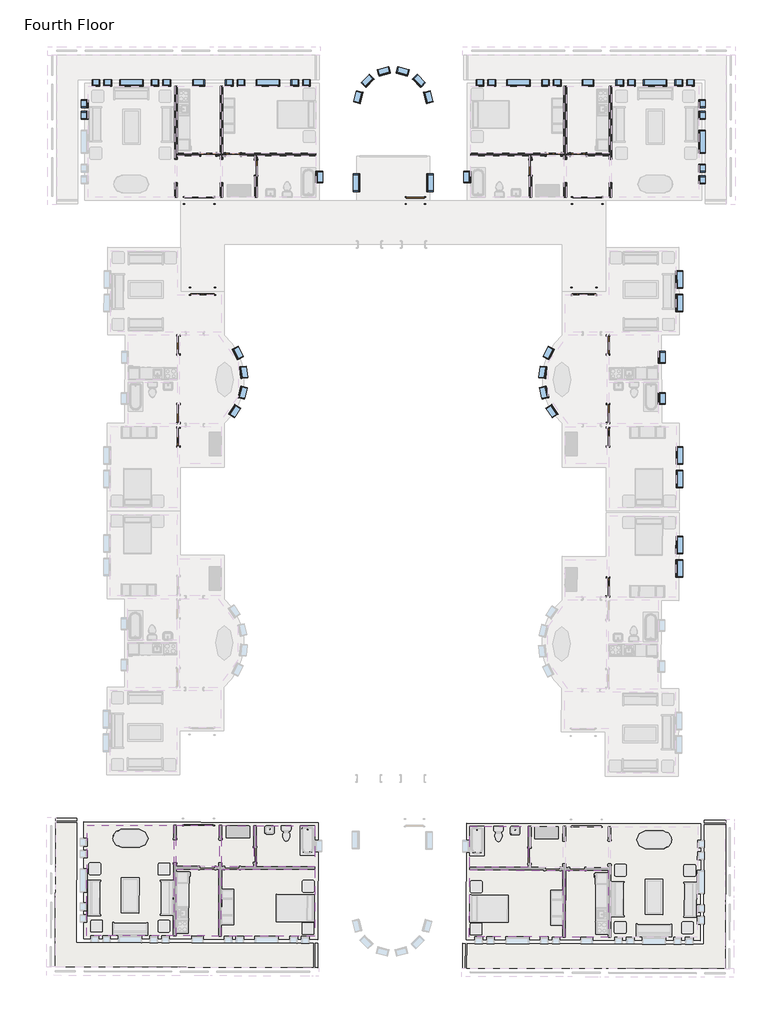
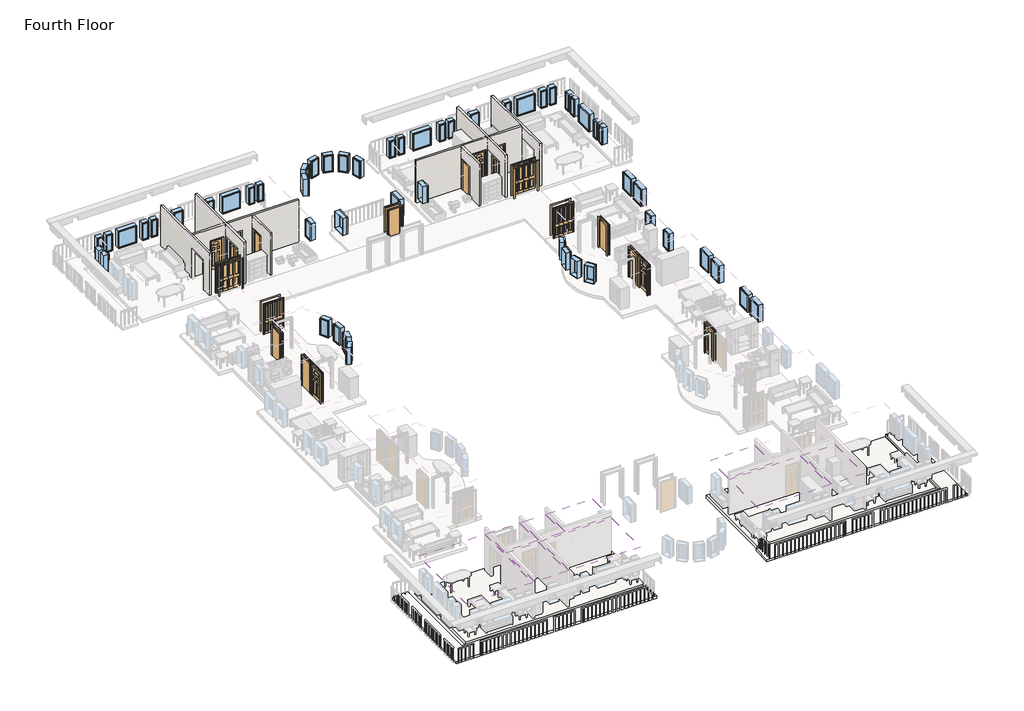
# One storey, part 2 of 8: 55 windows, 18 doors, 9 coverings, 8 walls, 4 slabs.
"""IFC4 building model written with IfcOpenShell, lengths in millimetres."""

from ifc_helpers import new_model, si_unit, frame, origin, place, context, project, spatial, polyline, outline, extrude, faceted_brep, transform, mapped, element, save
from components import m_bifold_4_panel_1220_x_2134mm_46e1cad3, m_bifold_4_panel_1220_x_2134mm_cde6dea2, m_bifold_4_panel_1525_x_2134mm_1ddae71f, m_bifold_4_panel_1525_x_2134mm_ac598c8b, m_single_decorative_2_0762_x_2134mm_0d0af7cb, m_single_decorative_2_0762_x_2134mm_2fe67c8e, m_single_decorative_2_0915_x_2134mm_cc9a65e4, m_single_decorative_2_0915_x_2134mm_0b11df3f, m_single_flush_0762_x_2134mm_0d89e411, m_single_flush_0762_x_2134mm_a28375c7, m_single_flush_0915_x_2134mm_1eac8bb1, m_single_flush_0915_x_2134mm_ab9b6334, m_single_flush_0915_x_2134mm_08e0827a, m_fixed_0406_x_1220mm_57fee329, m_fixed_0406_x_1220mm_85c28f40, m_fixed_0610_x_1220mm_2c28ef1d, m_fixed_0610_x_1220mm_1ea27827, m_fixed_0915_x_1220mm_bde29121, m_fixed_0915_x_1220mm_2a2509e7, m_fixed_1220_x_1220mm_e08ff7af, m_fixed_1220_x_1220mm_8f5f8ad3

model = new_model("IFC4")

# Units and contexts
model_context = context("Model", 3, world=origin())
ifc_project = project(units=[si_unit("LENGTHUNIT", "METRE", prefix="MILLI")], contexts=[model_context])

# Site, building, storey
site = spatial("IfcSite", under=ifc_project)
building = spatial("IfcBuilding", under=site)
storey = spatial("IfcBuildingStorey", under=building, Name="Fourth Floor", Elevation=9144.0)

# Coverings
placement = place(None, origin())
element("IfcCovering", 1, ObjectType="Plain", at=placement, inside=storey, context=model_context, shape_type="SweptSolid", body=[
    extrude(outline(polyline([(-14999.3091283, -41787.7339965), (-14989.2451686, -38311.2485634), (-10140.7654843, -38325.2842626), (-10150.829444, -41801.7696957), (-14999.3091283, -41787.7339965)])), frame((0.0, 0.0, 11734.0), z_axis=(0.0, 0.0, 1.0), x_axis=(1.0, 0.0, 0.0)), (0.0, 0.0, 1.0), 57.0),
])
element("IfcCovering", 2, ObjectType="Plain", at=placement, inside=storey, context=model_context, shape_type="SweptSolid", body=[
    extrude(outline(polyline([(-10005.2660521, -38325.6765153), (-7787.0253468, -38332.098025), (-7797.0893064, -41808.5834581), (-10015.3300117, -41802.1619484), (-10005.2660521, -38325.6765153)])), frame((0.0, 0.0, 11734.0), z_axis=(0.0, 0.0, 1.0), x_axis=(1.0, 0.0, 0.0)), (0.0, 0.0, 1.0), 57.0),
])
element("IfcCovering", 3, ObjectType="Plain", at=placement, inside=storey, context=model_context, shape_type="SweptSolid", body=[
    extrude(outline(polyline([(-11940.8656874, -38184.5726459), (-14988.8529159, -38175.7491311), (-14982.6752977, -36041.7580728), (-11934.6880691, -36050.5815875), (-11940.8656874, -38184.5726459)])), frame((0.0, 0.0, 11734.0), z_axis=(0.0, 0.0, 1.0), x_axis=(1.0, 0.0, 0.0)), (0.0, 0.0, 1.0), 57.0),
])
element("IfcCovering", 4, ObjectType="Plain", at=placement, inside=storey, context=model_context, shape_type="SweptSolid", body=[
    extrude(outline(polyline([(-23042.7754252, -41764.4492391), (-27891.2551095, -41750.4135399), (-27881.1911499, -38273.9281067), (-23032.7114656, -38287.9638059), (-23042.7754252, -41764.4492391)])), frame((0.0, 0.0, 11734.0), z_axis=(0.0, 0.0, 1.0), x_axis=(1.0, 0.0, 0.0)), (0.0, 0.0, 1.0), 57.0),
])
element("IfcCovering", 5, ObjectType="Plain", at=placement, inside=storey, context=model_context, shape_type="SweptSolid", body=[
    extrude(outline(polyline([(-28016.6905821, -38273.535854), (-28026.7545418, -41750.0212871), (-30244.9952471, -41743.5997775), (-30234.9312874, -38267.1143443), (-28016.6905821, -38273.535854)])), frame((0.0, 0.0, 11734.0), z_axis=(0.0, 0.0, 1.0), x_axis=(1.0, 0.0, 0.0)), (0.0, 0.0, 1.0), 57.0),
])
element("IfcCovering", 6, ObjectType="Plain", at=placement, inside=storey, context=model_context, shape_type="SweptSolid", body=[
    extrude(outline(polyline([(-30363.8608487, -35997.2316011), (-30380.4946793, -41743.2075247), (-34884.7258061, -41730.168379), (-34868.0919755, -35984.1924553), (-30363.8608487, -35997.2316011)])), frame((0.0, 0.0, 11734.0), z_axis=(0.0, 0.0, 1.0), x_axis=(1.0, 0.0, 0.0)), (0.0, 0.0, 1.0), 57.0),
])
element("IfcCovering", 7, ObjectType="Plain", at=placement, inside=storey, context=model_context, shape_type="SweptSolid", body=[
    extrude(outline(polyline([(-30228.3614165, -35997.6238538), (-28010.1207112, -36004.0453635), (-28016.2983294, -38138.0364218), (-30234.5390347, -38131.6149121), (-30228.3614165, -35997.6238538)])), frame((0.0, 0.0, 11734.0), z_axis=(0.0, 0.0, 1.0), x_axis=(1.0, 0.0, 0.0)), (0.0, 0.0, 1.0), 57.0),
])
element("IfcCovering", 8, ObjectType="Plain", at=placement, inside=storey, context=model_context, shape_type="SweptSolid", body=[
    extrude(outline(polyline([(-26080.3064415, -38143.640859), (-26074.1288232, -36009.6498006), (-23026.1415946, -36018.4733154), (-23032.3192129, -38152.4643737), (-26080.3064415, -38143.640859)])), frame((0.0, 0.0, 11734.0), z_axis=(0.0, 0.0, 1.0), x_axis=(1.0, 0.0, 0.0)), (0.0, 0.0, 1.0), 57.0),
])
element("IfcCovering", 9, ObjectType="Plain", at=placement, inside=storey, context=model_context, shape_type="SweptSolid", body=[
    extrude(outline(polyline([(-27874.6212789, -36004.4376162), (-26209.6282554, -36009.2575479), (-26215.8058737, -38143.2486063), (-27880.7988972, -38138.4286745), (-27874.6212789, -36004.4376162)])), frame((0.0, 0.0, 11734.0), z_axis=(0.0, 0.0, 1.0), x_axis=(1.0, 0.0, 0.0)), (0.0, 0.0, 1.0), 57.0),
])

# Doors
m_bifold_4_panel_1220_x_2134mm_shape = m_bifold_4_panel_1220_x_2134mm_46e1cad3(model_context)
element("IfcDoor", 10, ObjectType="M_Bifold-4 Panel : 1220 x 2134mm", at=placement, inside=storey, context=model_context, shape_type="MappedRepresentation", body=[
    mapped(m_bifold_4_panel_1220_x_2134mm_shape, transform((-28863.3459343, -8240.6820888, 9144.0), x_axis=(-0.9999989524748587, 0.0014474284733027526, 0.0), y_axis=(-0.0014474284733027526, -0.9999989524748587, 0.0), z_axis=(0.0, 0.0, 1.0))),
])
m_bifold_4_panel_1220_x_2134mm_2_shape = m_bifold_4_panel_1220_x_2134mm_cde6dea2(model_context)
element("IfcDoor", 11, ObjectType="M_Bifold-4 Panel : 1220 x 2134mm", at=placement, inside=storey, context=model_context, shape_type="MappedRepresentation", body=[
    mapped(m_bifold_4_panel_1220_x_2134mm_2_shape, transform((-9050.8373063, -8240.6820888, 9144.0), x_axis=(0.9999989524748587, 0.0014474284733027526, 0.0), y_axis=(-0.0014474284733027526, 0.9999989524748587, 0.0), z_axis=(0.0, 0.0, 1.0))),
])
m_bifold_4_panel_1525_x_2134mm_shape = m_bifold_4_panel_1525_x_2134mm_1ddae71f(model_context)
element("IfcDoor", 12, ObjectType="M_Bifold-4 Panel : 1525 x 2134mm", at=placement, inside=storey, context=model_context, shape_type="MappedRepresentation", body=[
    mapped(m_bifold_4_panel_1525_x_2134mm_shape, transform((-8876.0916203, -3514.8811614, 9144.0), x_axis=(1.0, 0.0, 0.0), y_axis=(0.0, 1.0, 0.0), z_axis=(0.0, 0.0, 1.0))),
])
m_bifold_4_panel_1525_x_2134mm_2_shape = m_bifold_4_panel_1525_x_2134mm_ac598c8b(model_context)
element("IfcDoor", 13, ObjectType="M_Bifold-4 Panel : 1525 x 2134mm", at=placement, inside=storey, context=model_context, shape_type="MappedRepresentation", body=[
    mapped(m_bifold_4_panel_1525_x_2134mm_2_shape, transform((-29038.0916203, -3514.8811614, 9144.0), x_axis=(-1.0, 0.0, 0.0), y_axis=(0.0, -1.0, 0.0), z_axis=(0.0, 0.0, 1.0))),
])
m_single_decorative_2_0762_x_2134mm_shape = m_single_decorative_2_0762_x_2134mm_0d0af7cb(model_context)
element("IfcDoor", 14, ObjectType="M_Single-Decorative 2 : 0762 x 2134mm", at=placement, inside=storey, context=model_context, shape_type="MappedRepresentation", body=[
    mapped(m_single_decorative_2_0762_x_2134mm_shape, transform((-9342.3416203, -1138.1311614, 9144.0), x_axis=(-1.0, 0.0, 0.0), y_axis=(0.0, -1.0, 0.0), z_axis=(0.0, 0.0, 1.0))),
])
element("IfcDoor", 15, ObjectType="M_Single-Decorative 2 : 0762 x 2134mm", at=placement, inside=storey, context=model_context, shape_type="MappedRepresentation", body=[
    mapped(m_single_decorative_2_0762_x_2134mm_shape, transform((-27285.0916203, -1138.1311614, 9144.0), x_axis=(-1.0, 0.0, 0.0), y_axis=(0.0, -1.0, 0.0), z_axis=(0.0, 0.0, 1.0))),
])
m_single_decorative_2_0762_x_2134mm_2_shape = m_single_decorative_2_0762_x_2134mm_2fe67c8e(model_context)
element("IfcDoor", 16, ObjectType="M_Single-Decorative 2 : 0762 x 2134mm", at=placement, inside=storey, context=model_context, shape_type="MappedRepresentation", body=[
    mapped(m_single_decorative_2_0762_x_2134mm_2_shape, transform((-10629.0916203, -1138.1311614, 9144.0), x_axis=(1.0, 0.0, 0.0), y_axis=(0.0, 1.0, 0.0), z_axis=(0.0, 0.0, 1.0))),
])
element("IfcDoor", 17, ObjectType="M_Single-Decorative 2 : 0762 x 2134mm", at=placement, inside=storey, context=model_context, shape_type="MappedRepresentation", body=[
    mapped(m_single_decorative_2_0762_x_2134mm_2_shape, transform((-28571.8416203, -1138.1311614, 9144.0), x_axis=(1.0, 0.0, 0.0), y_axis=(0.0, 1.0, 0.0), z_axis=(0.0, 0.0, 1.0))),
])
m_single_decorative_2_0915_x_2134mm_shape = m_single_decorative_2_0915_x_2134mm_cc9a65e4(model_context)
element("IfcDoor", 18, ObjectType="M_Single-Decorative 2 : 0915 x 2134mm", at=placement, inside=storey, context=model_context, shape_type="MappedRepresentation", body=[
    mapped(m_single_decorative_2_0915_x_2134mm_shape, transform((-30117.2933431, -15803.1250115, 9144.0), x_axis=(0.0014474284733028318, 0.9999989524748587, 0.0), y_axis=(-0.9999989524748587, 0.0014474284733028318, 0.0), z_axis=(0.0, 0.0, 1.0))),
])
element("IfcDoor", 19, ObjectType="M_Single-Decorative 2 : 0915 x 2134mm", at=placement, inside=storey, context=model_context, shape_type="MappedRepresentation", body=[
    mapped(m_single_decorative_2_0915_x_2134mm_shape, transform((-7808.1742155, -23599.2312198, 9144.0), x_axis=(-0.004342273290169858, -0.9999905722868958, 0.0), y_axis=(0.9999905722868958, -0.004342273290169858, 0.0), z_axis=(0.0, 0.0, 1.0))),
])
m_single_decorative_2_0915_x_2134mm_2_shape = m_single_decorative_2_0915_x_2134mm_0b11df3f(model_context)
element("IfcDoor", 20, ObjectType="M_Single-Decorative 2 : 0915 x 2134mm", at=placement, inside=storey, context=model_context, shape_type="MappedRepresentation", body=[
    mapped(m_single_decorative_2_0915_x_2134mm_2_shape, transform((-7796.8898976, -15803.1250115, 9144.0), x_axis=(-0.0014474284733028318, 0.9999989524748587, 0.0), y_axis=(-0.9999989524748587, -0.0014474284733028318, 0.0), z_axis=(0.0, 0.0, 1.0))),
])
m_single_flush_0762_x_2134mm_shape = m_single_flush_0762_x_2134mm_0d89e411(model_context)
element("IfcDoor", 21, ObjectType="M_Single-Flush : 0762 x 2134mm", at=placement, inside=storey, context=model_context, shape_type="MappedRepresentation", body=[
    mapped(m_single_flush_0762_x_2134mm_shape, transform((-11819.5916203, -1815.8811614, 9144.0), x_axis=(0.0, 1.0, 0.0), y_axis=(-1.0, 0.0, 0.0), z_axis=(0.0, 0.0, 1.0))),
])
m_single_flush_0762_x_2134mm_2_shape = m_single_flush_0762_x_2134mm_a28375c7(model_context)
element("IfcDoor", 22, ObjectType="M_Single-Flush : 0762 x 2134mm", at=placement, inside=storey, context=model_context, shape_type="MappedRepresentation", body=[
    mapped(m_single_flush_0762_x_2134mm_2_shape, transform((-26094.5916203, -1815.8811614, 9144.0), x_axis=(0.0, 1.0, 0.0), y_axis=(-1.0, 0.0, 0.0), z_axis=(0.0, 0.0, 1.0))),
])
m_single_flush_0915_x_2134mm_shape = m_single_flush_0915_x_2134mm_1eac8bb1(model_context)
element("IfcDoor", 23, ObjectType="M_Single-Flush : 0915 x 2134mm", at=placement, inside=storey, context=model_context, shape_type="MappedRepresentation", body=[
    mapped(m_single_flush_0915_x_2134mm_shape, transform((-17814.0916203, -3514.8811614, 9144.0), x_axis=(1.0, 0.0, 0.0), y_axis=(0.0, 1.0, 0.0), z_axis=(0.0, 0.0, 1.0))),
])
m_single_flush_0915_x_2134mm_2_shape = m_single_flush_0915_x_2134mm_ab9b6334(model_context)
element("IfcDoor", 24, ObjectType="M_Single-Flush : 0915 x 2134mm", at=placement, inside=storey, context=model_context, shape_type="MappedRepresentation", body=[
    mapped(m_single_flush_0915_x_2134mm_2_shape, transform((-7803.7915984, -11034.8800064, 9144.0), x_axis=(-0.0014474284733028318, 0.9999989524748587, 0.0), y_axis=(-0.9999989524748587, -0.0014474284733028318, 0.0), z_axis=(0.0, 0.0, 1.0))),
])
element("IfcDoor", 25, ObjectType="M_Single-Flush : 0915 x 2134mm", at=placement, inside=storey, context=model_context, shape_type="MappedRepresentation", body=[
    mapped(m_single_flush_0915_x_2134mm_2_shape, transform((-30115.5274803, -14583.1262895, 9144.0), x_axis=(-0.0014474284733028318, -0.9999989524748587, 0.0), y_axis=(0.9999989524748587, -0.0014474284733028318, 0.0), z_axis=(0.0, 0.0, 1.0))),
])
m_single_flush_0915_x_2134mm_3_shape = m_single_flush_0915_x_2134mm_08e0827a(model_context)
element("IfcDoor", 26, ObjectType="M_Single-Flush : 0915 x 2134mm", at=placement, inside=storey, context=model_context, shape_type="MappedRepresentation", body=[
    mapped(m_single_flush_0915_x_2134mm_3_shape, transform((-7798.6557603, -14583.1262895, 9144.0), x_axis=(0.0014474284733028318, -0.9999989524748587, 0.0), y_axis=(0.9999989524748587, 0.0014474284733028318, 0.0), z_axis=(0.0, 0.0, 1.0))),
])
element("IfcDoor", 27, ObjectType="M_Single-Flush : 0915 x 2134mm", at=placement, inside=storey, context=model_context, shape_type="MappedRepresentation", body=[
    mapped(m_single_flush_0915_x_2134mm_3_shape, transform((-30110.3916422, -11034.8800064, 9144.0), x_axis=(0.0014474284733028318, 0.9999989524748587, 0.0), y_axis=(-0.9999989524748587, 0.0014474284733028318, 0.0), z_axis=(0.0, 0.0, 1.0))),
])

# Slabs
element("IfcSlab", 28, ObjectType="160mm Concrete With 50mm Metal Deck", at=placement, inside=storey, context=model_context, shape_type="SweptSolid", body=[
    extrude(outline(polyline([(-2992.8370897, -41987.4918161), (-15164.7860878, -41952.2556543), (-15147.1969554, -35876.2811133), (-2975.2479573, -35911.5172751), (-2992.8370897, -41987.4918161)])), frame((0.0, 0.0, 8934.0), z_axis=(0.0, 0.0, 1.0), x_axis=(1.0, 0.0, 0.0)), (0.0, 0.0, 1.0), 210.0),
])
element("IfcSlab", 29, ObjectType="160mm Concrete With 50mm Metal Deck", at=placement, inside=storey, context=model_context, shape_type="SweptSolid", body=[
    extrude(outline(polyline([(-35050.2027656, -41894.6900367), (-35032.6136332, -35818.7154958), (-22860.6646351, -35853.9516576), (-22878.2537675, -41929.9261986), (-35050.2027656, -41894.6900367)])), frame((0.0, 0.0, 8934.0), z_axis=(0.0, 0.0, 1.0), x_axis=(1.0, 0.0, 0.0)), (0.0, 0.0, 1.0), 210.0),
])
element("IfcSlab", 30, ObjectType="Generic 150mm", at=placement, inside=storey, context=model_context, shape_type="SweptSolid", body=[
    extrude(outline(polyline([(-15354.0117993, -43411.7139887), (-15350.3208606, -42136.7193311), (-2808.3734128, -42173.0265889), (-2789.7131845, -35727.0535983), (-1689.7177936, -35730.2379376), (-1712.0689607, -43451.2055858), (-15354.0117993, -43411.7139887)])), frame((0.0, 0.0, 8994.0), z_axis=(0.0, 0.0, 1.0), x_axis=(1.0, 0.0, 0.0)), (0.0, 0.0, 1.0), 150.0),
])
element("IfcSlab", 31, ObjectType="Generic 150mm", at=placement, inside=storey, context=model_context, shape_type="SweptSolid", body=[
    extrude(outline(polyline([(-22885.4802416, -43389.9113965), (-36527.4230803, -43350.4197994), (-36505.0719132, -35629.4521511), (-35405.0765223, -35632.6364904), (-35423.7367507, -42078.6094811), (-22881.7893029, -42114.9167389), (-22885.4802416, -43389.9113965)])), frame((0.0, 0.0, 8994.0), z_axis=(0.0, 0.0, 1.0), x_axis=(1.0, 0.0, 0.0)), (0.0, 0.0, 1.0), 150.0),
])

# Walls
element("IfcWall", 32, ObjectType="Interior - 135mm Partition (2-hr)", at=placement, inside=storey, context=model_context, shape_type="Brep", body=[
    faceted_brep([(-7733.0916203, 2406.1188386, 9144.0), (-7733.0916203, -1070.3811614, 9144.0), (-7733.0916203, -1205.8811614, 9144.0), (-7733.0916203, -1380.8811614, 9144.0), (-7733.0916203, -1380.8811614, 11278.0), (-7733.0916203, -2600.8811614, 11278.0), (-7733.0916203, -2600.8811614, 9144.0), (-7733.0916203, -3339.8811614, 9144.0), (-7733.0916203, -3339.8811614, 12192.0), (-7733.0916203, -1205.8811614, 12192.0), (-7733.0916203, -1070.3811614, 12192.0), (-7733.0916203, 2406.1188386, 12192.0), (-7597.5916203, -1380.8811614, 11278.0), (-7597.5916203, -1380.8811614, 9144.0), (-7597.5916203, 2406.1188386, 9144.0), (-7597.5916203, 2406.1188386, 12192.0), (-7597.5916203, -3339.8811614, 12192.0), (-7597.5916203, -3339.8811614, 9144.0), (-7597.5916203, -2600.8811614, 9144.0), (-7597.5916203, -2600.8811614, 11278.0)], [[[0, 1, 2, 3, 4, 5, 6, 7, 8, 9, 10, 11]], [[12, 13, 14, 15, 16, 17, 18, 19]], [[18, 17, 7, 6]], [[14, 13, 3, 2, 1, 0]], [[11, 10, 9, 8, 16, 15]], [[6, 5, 19, 18]], [[4, 3, 13, 12]], [[5, 4, 12, 19]], [[8, 7, 17, 16]], [[0, 11, 15, 14]]]),
])
element("IfcWall", 33, ObjectType="Interior - 135mm Partition (2-hr)", at=placement, inside=storey, context=model_context, shape_type="Brep", body=[
    faceted_brep([(-10086.8416203, -2600.8811614, 11278.0), (-10086.8416203, -2600.8811614, 9144.0), (-10086.8416203, -3339.8811614, 9144.0), (-10086.8416203, -3339.8811614, 12192.0), (-10086.8416203, -1205.8811614, 12192.0), (-10086.8416203, -1070.3811614, 12192.0), (-10086.8416203, 2406.1188386, 12192.0), (-10086.8416203, 2406.1188386, 9144.0), (-10086.8416203, -1070.3811614, 9144.0), (-10086.8416203, -1205.8811614, 9144.0), (-10086.8416203, -1380.8811614, 9144.0), (-10086.8416203, -1380.8811614, 11278.0), (-9951.3416203, -3339.8811614, 9144.0), (-9951.3416203, -2600.8811614, 9144.0), (-9951.3416203, -2600.8811614, 11278.0), (-9951.3416203, -1380.8811614, 11278.0), (-9951.3416203, -1380.8811614, 9144.0), (-9951.3416203, -1205.8811614, 9144.0), (-9951.3416203, -1070.3811614, 9144.0), (-9951.3416203, 2406.1188386, 9144.0), (-9951.3416203, 2406.1188386, 12192.0), (-9951.3416203, -1070.3811614, 12192.0), (-9951.3416203, -1205.8811614, 12192.0), (-9951.3416203, -3339.8811614, 12192.0)], [[[0, 1, 2, 3, 4, 5, 6, 7, 8, 9, 10, 11]], [[12, 13, 14, 15, 16, 17, 18, 19, 20, 21, 22, 23]], [[2, 1, 13, 12]], [[10, 9, 8, 7, 19, 18, 17, 16]], [[6, 5, 4, 3, 23, 22, 21, 20]], [[16, 15, 11, 10]], [[14, 13, 1, 0]], [[15, 14, 0, 11]], [[3, 2, 12, 23]], [[7, 6, 20, 19]]]),
])
element("IfcWall", 34, ObjectType="Interior - 135mm Partition (2-hr)", at=placement, inside=storey, context=model_context, shape_type="Brep", body=[
    faceted_brep([(-9723.3416203, -1205.8811614, 9144.0), (-9723.3416203, -1205.8811614, 11278.0), (-8961.3416203, -1205.8811614, 11278.0), (-8961.3416203, -1205.8811614, 9144.0), (-7733.0916203, -1205.8811614, 9144.0), (-7733.0916203, -1205.8811614, 12192.0), (-9951.3416203, -1205.8811614, 12192.0), (-9951.3416203, -1205.8811614, 9144.0), (-9723.3416203, -1070.3811614, 11278.0), (-9723.3416203, -1070.3811614, 9144.0), (-9951.3416203, -1070.3811614, 9144.0), (-9951.3416203, -1070.3811614, 12192.0), (-7733.0916203, -1070.3811614, 12192.0), (-7733.0916203, -1070.3811614, 9144.0), (-8961.3416203, -1070.3811614, 9144.0), (-8961.3416203, -1070.3811614, 11278.0)], [[[0, 1, 2, 3, 4, 5, 6, 7]], [[8, 9, 10, 11, 12, 13, 14, 15]], [[9, 0, 7, 10]], [[3, 14, 13, 4]], [[5, 12, 11, 6]], [[1, 0, 9, 8]], [[2, 1, 8, 15]], [[3, 2, 15, 14]], [[5, 4, 13, 12]], [[7, 6, 11, 10]]]),
    faceted_brep([(-10248.0916203, -1205.8811614, 11278.0), (-10248.0916203, -1205.8811614, 9144.0), (-10086.8416203, -1205.8811614, 9144.0), (-10086.8416203, -1205.8811614, 12192.0), (-11751.8416203, -1205.8811614, 12192.0), (-11887.3416203, -1205.8811614, 12192.0), (-14935.3416203, -1205.8811614, 12192.0), (-14935.3416203, -1205.8811614, 9144.0), (-11887.3416203, -1205.8811614, 9144.0), (-11751.8416203, -1205.8811614, 9144.0), (-11010.0916203, -1205.8811614, 9144.0), (-11010.0916203, -1205.8811614, 11278.0), (-10248.0916203, -1070.3811614, 9144.0), (-10248.0916203, -1070.3811614, 11278.0), (-11010.0916203, -1070.3811614, 11278.0), (-11010.0916203, -1070.3811614, 9144.0), (-14935.3416203, -1070.3811614, 9144.0), (-14935.3416203, -1070.3811614, 12192.0), (-10086.8416203, -1070.3811614, 12192.0), (-10086.8416203, -1070.3811614, 9144.0)], [[[0, 1, 2, 3, 4, 5, 6, 7, 8, 9, 10, 11]], [[12, 13, 14, 15, 16, 17, 18, 19]], [[1, 12, 19, 2]], [[15, 10, 9, 8, 7, 16]], [[17, 6, 5, 4, 3, 18]], [[13, 12, 1, 0]], [[14, 13, 0, 11]], [[15, 14, 11, 10]], [[7, 6, 17, 16]], [[3, 2, 19, 18]]]),
])
element("IfcWall", 35, ObjectType="Interior - 135mm Partition (2-hr)", at=placement, inside=storey, context=model_context, shape_type="SweptSolid", body=[
    extrude(outline(polyline([(-1205.8811614, 9144.0), (-1434.8811614, 9144.0), (-1434.8811614, 11278.0), (-2196.8811614, 11278.0), (-2196.8811614, 9144.0), (-3339.8811614, 9144.0), (-3339.8811614, 12192.0), (-1205.8811614, 12192.0), (-1205.8811614, 9144.0)])), frame((-11887.3416203, 0.0, 0.0), z_axis=(1.0, 0.0, 0.0), x_axis=(0.0, 1.0, 0.0)), (0.0, 0.0, 1.0), 135.5),
])
element("IfcWall", 36, ObjectType="Interior - 135mm Partition (2-hr)", at=placement, inside=storey, context=model_context, shape_type="Brep", body=[
    faceted_brep([(-30316.5916203, 2406.1188386, 9144.0), (-30316.5916203, -1380.8811614, 9144.0), (-30316.5916203, -1380.8811614, 11278.0), (-30316.5916203, -2600.8811614, 11278.0), (-30316.5916203, -2600.8811614, 9144.0), (-30316.5916203, -3339.8811614, 9144.0), (-30316.5916203, -3339.8811614, 12192.0), (-30316.5916203, 2406.1188386, 12192.0), (-30181.0916203, -1380.8811614, 11278.0), (-30181.0916203, -1380.8811614, 9144.0), (-30181.0916203, -1205.8811614, 9144.0), (-30181.0916203, -1070.3811614, 9144.0), (-30181.0916203, 2406.1188386, 9144.0), (-30181.0916203, 2406.1188386, 12192.0), (-30181.0916203, -1070.3811614, 12192.0), (-30181.0916203, -1205.8811614, 12192.0), (-30181.0916203, -3339.8811614, 12192.0), (-30181.0916203, -3339.8811614, 9144.0), (-30181.0916203, -2600.8811614, 9144.0), (-30181.0916203, -2600.8811614, 11278.0)], [[[0, 1, 2, 3, 4, 5, 6, 7]], [[8, 9, 10, 11, 12, 13, 14, 15, 16, 17, 18, 19]], [[18, 17, 5, 4]], [[12, 11, 10, 9, 1, 0]], [[7, 6, 16, 15, 14, 13]], [[4, 3, 19, 18]], [[2, 1, 9, 8]], [[3, 2, 8, 19]], [[0, 7, 13, 12]], [[6, 5, 17, 16]]]),
])
element("IfcWall", 37, ObjectType="Interior - 135mm Partition (2-hr)", at=placement, inside=storey, context=model_context, shape_type="Brep", body=[
    faceted_brep([(-27962.8416203, -2600.8811614, 11278.0), (-27962.8416203, -2600.8811614, 9144.0), (-27962.8416203, -3339.8811614, 9144.0), (-27962.8416203, -3339.8811614, 12192.0), (-27962.8416203, -1205.8811614, 12192.0), (-27962.8416203, -1070.3811614, 12192.0), (-27962.8416203, 2406.1188386, 12192.0), (-27962.8416203, 2406.1188386, 9144.0), (-27962.8416203, -1070.3811614, 9144.0), (-27962.8416203, -1205.8811614, 9144.0), (-27962.8416203, -1380.8811614, 9144.0), (-27962.8416203, -1380.8811614, 11278.0), (-27827.3416203, -3339.8811614, 9144.0), (-27827.3416203, -2600.8811614, 9144.0), (-27827.3416203, -2600.8811614, 11278.0), (-27827.3416203, -1380.8811614, 11278.0), (-27827.3416203, -1380.8811614, 9144.0), (-27827.3416203, -1205.8811614, 9144.0), (-27827.3416203, -1070.3811614, 9144.0), (-27827.3416203, 2406.1188386, 9144.0), (-27827.3416203, 2406.1188386, 12192.0), (-27827.3416203, -1070.3811614, 12192.0), (-27827.3416203, -1205.8811614, 12192.0), (-27827.3416203, -3339.8811614, 12192.0)], [[[0, 1, 2, 3, 4, 5, 6, 7, 8, 9, 10, 11]], [[12, 13, 14, 15, 16, 17, 18, 19, 20, 21, 22, 23]], [[2, 1, 13, 12]], [[10, 9, 8, 7, 19, 18, 17, 16]], [[6, 5, 4, 3, 23, 22, 21, 20]], [[16, 15, 11, 10]], [[14, 13, 1, 0]], [[15, 14, 0, 11]], [[7, 6, 20, 19]], [[3, 2, 12, 23]]]),
])
element("IfcWall", 38, ObjectType="Interior - 135mm Partition (2-hr)", at=placement, inside=storey, context=model_context, shape_type="Brep", body=[
    faceted_brep([(-30181.0916203, -1070.3811614, 9144.0), (-30181.0916203, -1070.3811614, 12192.0), (-27962.8416203, -1070.3811614, 12192.0), (-27962.8416203, -1070.3811614, 9144.0), (-28190.8416203, -1070.3811614, 9144.0), (-28190.8416203, -1070.3811614, 11278.0), (-28952.8416203, -1070.3811614, 11278.0), (-28952.8416203, -1070.3811614, 9144.0), (-30181.0916203, -1205.8811614, 12192.0), (-30181.0916203, -1205.8811614, 9144.0), (-28952.8416203, -1205.8811614, 9144.0), (-28952.8416203, -1205.8811614, 11278.0), (-28190.8416203, -1205.8811614, 11278.0), (-28190.8416203, -1205.8811614, 9144.0), (-27962.8416203, -1205.8811614, 9144.0), (-27962.8416203, -1205.8811614, 12192.0)], [[[0, 1, 2, 3, 4, 5, 6, 7]], [[8, 9, 10, 11, 12, 13, 14, 15]], [[9, 0, 7, 10]], [[13, 4, 3, 14]], [[1, 8, 15, 2]], [[1, 0, 9, 8]], [[3, 2, 15, 14]], [[5, 4, 13, 12]], [[6, 5, 12, 11]], [[7, 6, 11, 10]]]),
    faceted_brep([(-27666.0916203, -1070.3811614, 11278.0), (-27666.0916203, -1070.3811614, 9144.0), (-27827.3416203, -1070.3811614, 9144.0), (-27827.3416203, -1070.3811614, 12192.0), (-22978.8416203, -1070.3811614, 12192.0), (-22978.8416203, -1070.3811614, 9144.0), (-26904.0916203, -1070.3811614, 9144.0), (-26904.0916203, -1070.3811614, 11278.0), (-27666.0916203, -1205.8811614, 9144.0), (-27666.0916203, -1205.8811614, 11278.0), (-26904.0916203, -1205.8811614, 11278.0), (-26904.0916203, -1205.8811614, 9144.0), (-26162.3416203, -1205.8811614, 9144.0), (-26026.8416203, -1205.8811614, 9144.0), (-22978.8416203, -1205.8811614, 9144.0), (-22978.8416203, -1205.8811614, 12192.0), (-26026.8416203, -1205.8811614, 12192.0), (-26162.3416203, -1205.8811614, 12192.0), (-27827.3416203, -1205.8811614, 12192.0), (-27827.3416203, -1205.8811614, 9144.0)], [[[0, 1, 2, 3, 4, 5, 6, 7]], [[8, 9, 10, 11, 12, 13, 14, 15, 16, 17, 18, 19]], [[1, 8, 19, 2]], [[11, 6, 5, 14, 13, 12]], [[15, 4, 3, 18, 17, 16]], [[3, 2, 19, 18]], [[9, 8, 1, 0]], [[10, 9, 0, 7]], [[11, 10, 7, 6]], [[5, 4, 15, 14]]]),
])
element("IfcWall", 39, ObjectType="Interior - 135mm Partition (2-hr)", at=placement, inside=storey, context=model_context, shape_type="SweptSolid", body=[
    extrude(outline(polyline([(-1205.8811614, 9144.0), (-1434.8811614, 9144.0), (-1434.8811614, 11278.0), (-2196.8811614, 11278.0), (-2196.8811614, 9144.0), (-3339.8811614, 9144.0), (-3339.8811614, 12192.0), (-1205.8811614, 12192.0), (-1205.8811614, 9144.0)])), frame((-26162.3416203, 0.0, 0.0), z_axis=(1.0, 0.0, 0.0), x_axis=(0.0, 1.0, 0.0)), (0.0, 0.0, 1.0), 135.5),
])

# Windows
m_fixed_0406_x_1220mm_shape = m_fixed_0406_x_1220mm_57fee329(model_context)
element("IfcWindow", 40, ObjectType="M_Fixed : 0406 x 1220mm", at=placement, inside=storey, context=model_context, shape_type="MappedRepresentation", body=[
    mapped(m_fixed_0406_x_1220mm_shape, transform((-14450.3416203, 2594.1188386, 9144.0), x_axis=(-1.0, 0.0, 0.0), y_axis=(0.0, -1.0, 0.0), z_axis=(0.0, 0.0, 1.0))),
])
element("IfcWindow", 41, ObjectType="M_Fixed : 0406 x 1220mm", at=placement, inside=storey, context=model_context, shape_type="MappedRepresentation", body=[
    mapped(m_fixed_0406_x_1220mm_shape, transform((-13840.3416203, 2594.1188386, 9144.0), x_axis=(-1.0, 0.0, 0.0), y_axis=(0.0, -1.0, 0.0), z_axis=(0.0, 0.0, 1.0))),
])
element("IfcWindow", 42, ObjectType="M_Fixed : 0406 x 1220mm", at=placement, inside=storey, context=model_context, shape_type="MappedRepresentation", body=[
    mapped(m_fixed_0406_x_1220mm_shape, transform((-7183.3416203, 2594.1188386, 9144.0), x_axis=(-1.0, 0.0, 0.0), y_axis=(0.0, -1.0, 0.0), z_axis=(0.0, 0.0, 1.0))),
])
element("IfcWindow", 43, ObjectType="M_Fixed : 0406 x 1220mm", at=placement, inside=storey, context=model_context, shape_type="MappedRepresentation", body=[
    mapped(m_fixed_0406_x_1220mm_shape, transform((-6573.3416203, 2594.1188386, 9144.0), x_axis=(-1.0, 0.0, 0.0), y_axis=(0.0, -1.0, 0.0), z_axis=(0.0, 0.0, 1.0))),
])
element("IfcWindow", 44, ObjectType="M_Fixed : 0406 x 1220mm", at=placement, inside=storey, context=model_context, shape_type="MappedRepresentation", body=[
    mapped(m_fixed_0406_x_1220mm_shape, transform((-2905.3416203, 1514.1188386, 9144.0), x_axis=(0.0, 1.0, 0.0), y_axis=(-1.0, 0.0, 0.0), z_axis=(0.0, 0.0, 1.0))),
])
element("IfcWindow", 45, ObjectType="M_Fixed : 0406 x 1220mm", at=placement, inside=storey, context=model_context, shape_type="MappedRepresentation", body=[
    mapped(m_fixed_0406_x_1220mm_shape, transform((-2905.3416203, 904.1188386, 9144.0), x_axis=(0.0, 1.0, 0.0), y_axis=(-1.0, 0.0, 0.0), z_axis=(0.0, 0.0, 1.0))),
])
element("IfcWindow", 46, ObjectType="M_Fixed : 0406 x 1220mm", at=placement, inside=storey, context=model_context, shape_type="MappedRepresentation", body=[
    mapped(m_fixed_0406_x_1220mm_shape, transform((-27477.8416203, 2594.1188386, 9144.0), x_axis=(-1.0, 0.0, 0.0), y_axis=(0.0, -1.0, 0.0), z_axis=(0.0, 0.0, 1.0))),
])
element("IfcWindow", 47, ObjectType="M_Fixed : 0406 x 1220mm", at=placement, inside=storey, context=model_context, shape_type="MappedRepresentation", body=[
    mapped(m_fixed_0406_x_1220mm_shape, transform((-26867.8416203, 2594.1188386, 9144.0), x_axis=(-1.0, 0.0, 0.0), y_axis=(0.0, -1.0, 0.0), z_axis=(0.0, 0.0, 1.0))),
])
element("IfcWindow", 48, ObjectType="M_Fixed : 0406 x 1220mm", at=placement, inside=storey, context=model_context, shape_type="MappedRepresentation", body=[
    mapped(m_fixed_0406_x_1220mm_shape, transform((-34406.5916203, 2594.1188386, 9144.0), x_axis=(-1.0, 0.0, 0.0), y_axis=(0.0, -1.0, 0.0), z_axis=(0.0, 0.0, 1.0))),
])
element("IfcWindow", 49, ObjectType="M_Fixed : 0406 x 1220mm", at=placement, inside=storey, context=model_context, shape_type="MappedRepresentation", body=[
    mapped(m_fixed_0406_x_1220mm_shape, transform((-33796.5916203, 2594.1188386, 9144.0), x_axis=(-1.0, 0.0, 0.0), y_axis=(0.0, -1.0, 0.0), z_axis=(0.0, 0.0, 1.0))),
])
m_fixed_0406_x_1220mm_2_shape = m_fixed_0406_x_1220mm_85c28f40(model_context)
element("IfcWindow", 50, ObjectType="M_Fixed : 0406 x 1220mm", at=placement, inside=storey, context=model_context, shape_type="MappedRepresentation", body=[
    mapped(m_fixed_0406_x_1220mm_2_shape, transform((-10436.3416203, 2594.1188386, 9144.0), x_axis=(1.0, 0.0, 0.0), y_axis=(0.0, 1.0, 0.0), z_axis=(0.0, 0.0, 1.0))),
])
element("IfcWindow", 51, ObjectType="M_Fixed : 0406 x 1220mm", at=placement, inside=storey, context=model_context, shape_type="MappedRepresentation", body=[
    mapped(m_fixed_0406_x_1220mm_2_shape, transform((-11046.3416203, 2594.1188386, 9144.0), x_axis=(1.0, 0.0, 0.0), y_axis=(0.0, 1.0, 0.0), z_axis=(0.0, 0.0, 1.0))),
])
element("IfcWindow", 52, ObjectType="M_Fixed : 0406 x 1220mm", at=placement, inside=storey, context=model_context, shape_type="MappedRepresentation", body=[
    mapped(m_fixed_0406_x_1220mm_2_shape, transform((-3507.5916203, 2594.1188386, 9144.0), x_axis=(1.0, 0.0, 0.0), y_axis=(0.0, 1.0, 0.0), z_axis=(0.0, 0.0, 1.0))),
])
element("IfcWindow", 53, ObjectType="M_Fixed : 0406 x 1220mm", at=placement, inside=storey, context=model_context, shape_type="MappedRepresentation", body=[
    mapped(m_fixed_0406_x_1220mm_2_shape, transform((-4117.5916203, 2594.1188386, 9144.0), x_axis=(1.0, 0.0, 0.0), y_axis=(0.0, 1.0, 0.0), z_axis=(0.0, 0.0, 1.0))),
])
element("IfcWindow", 54, ObjectType="M_Fixed : 0406 x 1220mm", at=placement, inside=storey, context=model_context, shape_type="MappedRepresentation", body=[
    mapped(m_fixed_0406_x_1220mm_2_shape, transform((-2905.3416203, -2447.8811614, 9144.0), x_axis=(0.0, -1.0, 0.0), y_axis=(1.0, 0.0, 0.0), z_axis=(0.0, 0.0, 1.0))),
])
element("IfcWindow", 55, ObjectType="M_Fixed : 0406 x 1220mm", at=placement, inside=storey, context=model_context, shape_type="MappedRepresentation", body=[
    mapped(m_fixed_0406_x_1220mm_2_shape, transform((-2905.3416203, -1837.8811614, 9144.0), x_axis=(0.0, -1.0, 0.0), y_axis=(1.0, 0.0, 0.0), z_axis=(0.0, 0.0, 1.0))),
])
element("IfcWindow", 56, ObjectType="M_Fixed : 0406 x 1220mm", at=placement, inside=storey, context=model_context, shape_type="MappedRepresentation", body=[
    mapped(m_fixed_0406_x_1220mm_2_shape, transform((-23463.8416203, 2594.1188386, 9144.0), x_axis=(1.0, 0.0, 0.0), y_axis=(0.0, 1.0, 0.0), z_axis=(0.0, 0.0, 1.0))),
])
element("IfcWindow", 57, ObjectType="M_Fixed : 0406 x 1220mm", at=placement, inside=storey, context=model_context, shape_type="MappedRepresentation", body=[
    mapped(m_fixed_0406_x_1220mm_2_shape, transform((-24073.8416203, 2594.1188386, 9144.0), x_axis=(1.0, 0.0, 0.0), y_axis=(0.0, 1.0, 0.0), z_axis=(0.0, 0.0, 1.0))),
])
element("IfcWindow", 58, ObjectType="M_Fixed : 0406 x 1220mm", at=placement, inside=storey, context=model_context, shape_type="MappedRepresentation", body=[
    mapped(m_fixed_0406_x_1220mm_2_shape, transform((-30730.8416203, 2594.1188386, 9144.0), x_axis=(1.0, 0.0, 0.0), y_axis=(0.0, 1.0, 0.0), z_axis=(0.0, 0.0, 1.0))),
])
element("IfcWindow", 59, ObjectType="M_Fixed : 0406 x 1220mm", at=placement, inside=storey, context=model_context, shape_type="MappedRepresentation", body=[
    mapped(m_fixed_0406_x_1220mm_2_shape, transform((-31340.8416203, 2594.1188386, 9144.0), x_axis=(1.0, 0.0, 0.0), y_axis=(0.0, 1.0, 0.0), z_axis=(0.0, 0.0, 1.0))),
])
element("IfcWindow", 60, ObjectType="M_Fixed : 0406 x 1220mm", at=placement, inside=storey, context=model_context, shape_type="MappedRepresentation", body=[
    mapped(m_fixed_0406_x_1220mm_2_shape, transform((-35008.8416203, 1514.1188386, 9144.0), x_axis=(0.0, 1.0, 0.0), y_axis=(-1.0, 0.0, 0.0), z_axis=(0.0, 0.0, 1.0))),
])
element("IfcWindow", 61, ObjectType="M_Fixed : 0406 x 1220mm", at=placement, inside=storey, context=model_context, shape_type="MappedRepresentation", body=[
    mapped(m_fixed_0406_x_1220mm_2_shape, transform((-35008.8416203, 904.1188386, 9144.0), x_axis=(0.0, 1.0, 0.0), y_axis=(-1.0, 0.0, 0.0), z_axis=(0.0, 0.0, 1.0))),
])
m_fixed_0610_x_1220mm_shape = m_fixed_0610_x_1220mm_2c28ef1d(model_context)
element("IfcWindow", 62, ObjectType="M_Fixed : 0610 x 1220mm", at=placement, inside=storey, context=model_context, shape_type="MappedRepresentation", body=[
    mapped(m_fixed_0610_x_1220mm_shape, transform((-8842.1916203, 2594.1188386, 9144.0), x_axis=(-1.0, 0.0, 0.0), y_axis=(0.0, -1.0, 0.0), z_axis=(0.0, 0.0, 1.0))),
])
element("IfcWindow", 63, ObjectType="M_Fixed : 0610 x 1220mm", at=placement, inside=storey, context=model_context, shape_type="MappedRepresentation", body=[
    mapped(m_fixed_0610_x_1220mm_shape, transform((-15123.3416203, -2294.8811614, 9144.0), x_axis=(0.0, -1.0, 0.0), y_axis=(1.0, 0.0, 0.0), z_axis=(0.0, 0.0, 1.0))),
])
element("IfcWindow", 64, ObjectType="M_Fixed : 0610 x 1220mm", at=placement, inside=storey, context=model_context, shape_type="MappedRepresentation", body=[
    mapped(m_fixed_0610_x_1220mm_shape, transform((-20788.0201619, 1852.7146627, 9144.0), x_axis=(-0.2588190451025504, -0.9659258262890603, 0.0), y_axis=(0.9659258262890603, -0.2588190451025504, 0.0), z_axis=(0.0, 0.0, 1.0))),
])
element("IfcWindow", 65, ObjectType="M_Fixed : 0610 x 1220mm", at=placement, inside=storey, context=model_context, shape_type="MappedRepresentation", body=[
    mapped(m_fixed_0610_x_1220mm_shape, transform((-19447.6874444, 3193.0473802, 9144.0), x_axis=(-0.9659258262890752, -0.2588190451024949, 0.0), y_axis=(0.2588190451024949, -0.9659258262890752, 0.0), z_axis=(0.0, 0.0, 1.0))),
])
element("IfcWindow", 66, ObjectType="M_Fixed : 0610 x 1220mm", at=placement, inside=storey, context=model_context, shape_type="MappedRepresentation", body=[
    mapped(m_fixed_0610_x_1220mm_shape, transform((-20297.4243378, 2702.4515561, 9144.0), x_axis=(-0.707106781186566, -0.7071067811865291, 0.0), y_axis=(0.7071067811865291, -0.707106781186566, 0.0), z_axis=(0.0, 0.0, 1.0))),
])
element("IfcWindow", 67, ObjectType="M_Fixed : 0610 x 1220mm", at=placement, inside=storey, context=model_context, shape_type="MappedRepresentation", body=[
    mapped(m_fixed_0610_x_1220mm_shape, transform((-10890.7718819, -11438.4303335, 9144.0), x_axis=(-0.4506702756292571, -0.8926904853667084, 0.0), y_axis=(0.8926904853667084, -0.4506702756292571, 0.0), z_axis=(0.0, 0.0, 1.0))),
])
element("IfcWindow", 68, ObjectType="M_Fixed : 0610 x 1220mm", at=placement, inside=storey, context=model_context, shape_type="MappedRepresentation", body=[
    mapped(m_fixed_0610_x_1220mm_shape, transform((-11196.3470359, -12451.3940589, 9144.0), x_axis=(-0.11817340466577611, -0.9929929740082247, 0.0), y_axis=(0.9929929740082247, -0.11817340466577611, 0.0), z_axis=(0.0, 0.0, 1.0))),
])
element("IfcWindow", 69, ObjectType="M_Fixed : 0610 x 1220mm", at=placement, inside=storey, context=model_context, shape_type="MappedRepresentation", body=[
    mapped(m_fixed_0610_x_1220mm_shape, transform((-27195.6619811, -14479.206252, 9144.0), x_axis=(0.5477575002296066, 0.8366371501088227, 0.0), y_axis=(-0.8366371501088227, 0.5477575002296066, 0.0), z_axis=(0.0, 0.0, 1.0))),
])
element("IfcWindow", 70, ObjectType="M_Fixed : 0610 x 1220mm", at=placement, inside=storey, context=model_context, shape_type="MappedRepresentation", body=[
    mapped(m_fixed_0610_x_1220mm_shape, transform((-26778.8680979, -13507.3765282, 9144.0), x_axis=(0.22857692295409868, 0.9735258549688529, 0.0), y_axis=(-0.9735258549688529, 0.22857692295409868, 0.0), z_axis=(0.0, 0.0, 1.0))),
])
m_fixed_0610_x_1220mm_2_shape = m_fixed_0610_x_1220mm_1ea27827(model_context)
element("IfcWindow", 71, ObjectType="M_Fixed : 0610 x 1220mm", at=placement, inside=storey, context=model_context, shape_type="MappedRepresentation", body=[
    mapped(m_fixed_0610_x_1220mm_2_shape, transform((-17126.1630788, 1852.7146627, 9144.0), x_axis=(0.2588190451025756, -0.9659258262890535, 0.0), y_axis=(0.9659258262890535, 0.2588190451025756, 0.0), z_axis=(0.0, 0.0, 1.0))),
])
element("IfcWindow", 72, ObjectType="M_Fixed : 0610 x 1220mm", at=placement, inside=storey, context=model_context, shape_type="MappedRepresentation", body=[
    mapped(m_fixed_0610_x_1220mm_2_shape, transform((-18466.4957962, 3193.0473802, 9144.0), x_axis=(0.9659258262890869, -0.2588190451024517, 0.0), y_axis=(0.2588190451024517, 0.9659258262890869, 0.0), z_axis=(0.0, 0.0, 1.0))),
])
element("IfcWindow", 73, ObjectType="M_Fixed : 0610 x 1220mm", at=placement, inside=storey, context=model_context, shape_type="MappedRepresentation", body=[
    mapped(m_fixed_0610_x_1220mm_2_shape, transform((-17616.7589029, 2702.4515561, 9144.0), x_axis=(0.7071067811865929, -0.7071067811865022, 0.0), y_axis=(0.7071067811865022, 0.7071067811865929, 0.0), z_axis=(0.0, 0.0, 1.0))),
])
element("IfcWindow", 74, ObjectType="M_Fixed : 0610 x 1220mm", at=placement, inside=storey, context=model_context, shape_type="MappedRepresentation", body=[
    mapped(m_fixed_0610_x_1220mm_2_shape, transform((-4991.1778541, -13805.8618518, 9144.0), x_axis=(0.0014474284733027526, -0.9999989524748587, 0.0), y_axis=(0.9999989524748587, 0.0014474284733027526, 0.0), z_axis=(0.0, 0.0, 1.0))),
])
element("IfcWindow", 75, ObjectType="M_Fixed : 0610 x 1220mm", at=placement, inside=storey, context=model_context, shape_type="MappedRepresentation", body=[
    mapped(m_fixed_0610_x_1220mm_2_shape, transform((-4994.2660875, -11672.2640868, 9144.0), x_axis=(0.0014474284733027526, -0.9999989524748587, 0.0), y_axis=(0.9999989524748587, 0.0014474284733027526, 0.0), z_axis=(0.0, 0.0, 1.0))),
])
element("IfcWindow", 76, ObjectType="M_Fixed : 0610 x 1220mm", at=placement, inside=storey, context=model_context, shape_type="MappedRepresentation", body=[
    mapped(m_fixed_0610_x_1220mm_2_shape, transform((-10720.0033717, -14480.1766106, 9144.0), x_axis=(-0.5477575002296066, 0.8366371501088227, 0.0), y_axis=(-0.8366371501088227, -0.5477575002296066, 0.0), z_axis=(0.0, 0.0, 1.0))),
])
element("IfcWindow", 77, ObjectType="M_Fixed : 0610 x 1220mm", at=placement, inside=storey, context=model_context, shape_type="MappedRepresentation", body=[
    mapped(m_fixed_0610_x_1220mm_2_shape, transform((-11137.0397547, -13507.7814548, 9144.0), x_axis=(-0.22857692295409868, 0.9735258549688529, 0.0), y_axis=(-0.9735258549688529, -0.22857692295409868, 0.0), z_axis=(0.0, 0.0, 1.0))),
])
element("IfcWindow", 78, ObjectType="M_Fixed : 0610 x 1220mm", at=placement, inside=storey, context=model_context, shape_type="MappedRepresentation", body=[
    mapped(m_fixed_0610_x_1220mm_2_shape, transform((-29071.9916203, 2594.1188386, 9144.0), x_axis=(1.0, 0.0, 0.0), y_axis=(0.0, 1.0, 0.0), z_axis=(0.0, 0.0, 1.0))),
])
element("IfcWindow", 79, ObjectType="M_Fixed : 0610 x 1220mm", at=placement, inside=storey, context=model_context, shape_type="MappedRepresentation", body=[
    mapped(m_fixed_0610_x_1220mm_2_shape, transform((-22790.8416203, -2294.8811614, 9144.0), x_axis=(0.0, -1.0, 0.0), y_axis=(1.0, 0.0, 0.0), z_axis=(0.0, 0.0, 1.0))),
])
element("IfcWindow", 80, ObjectType="M_Fixed : 0610 x 1220mm", at=placement, inside=storey, context=model_context, shape_type="MappedRepresentation", body=[
    mapped(m_fixed_0610_x_1220mm_2_shape, transform((-27024.99277, -11439.2287009, 9144.0), x_axis=(0.4506702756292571, -0.8926904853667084, 0.0), y_axis=(0.8926904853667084, 0.4506702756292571, 0.0), z_axis=(0.0, 0.0, 1.0))),
])
element("IfcWindow", 81, ObjectType="M_Fixed : 0610 x 1220mm", at=placement, inside=storey, context=model_context, shape_type="MappedRepresentation", body=[
    mapped(m_fixed_0610_x_1220mm_2_shape, transform((-26719.595303, -12451.6034044, 9144.0), x_axis=(0.11817340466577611, -0.9929929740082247, 0.0), y_axis=(0.9929929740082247, 0.11817340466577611, 0.0), z_axis=(0.0, 0.0, 1.0))),
])
m_fixed_0915_x_1220mm_shape = m_fixed_0915_x_1220mm_bde29121(model_context)
element("IfcWindow", 82, ObjectType="M_Fixed : 0915 x 1220mm", at=placement, inside=storey, context=model_context, shape_type="MappedRepresentation", body=[
    mapped(m_fixed_0915_x_1220mm_shape, transform((-20875.0916203, -2599.8811614, 9144.0), x_axis=(0.0, -1.0, 0.0), y_axis=(1.0, 0.0, 0.0), z_axis=(0.0, 0.0, 1.0))),
])
element("IfcWindow", 83, ObjectType="M_Fixed : 0915 x 1220mm", at=placement, inside=storey, context=model_context, shape_type="MappedRepresentation", body=[
    mapped(m_fixed_0915_x_1220mm_shape, transform((-17039.0916203, -2599.8811614, 9144.0), x_axis=(0.0, 1.0, 0.0), y_axis=(-1.0, 0.0, 0.0), z_axis=(0.0, 0.0, 1.0))),
])
element("IfcWindow", 84, ObjectType="M_Fixed : 0915 x 1220mm", at=placement, inside=storey, context=model_context, shape_type="MappedRepresentation", body=[
    mapped(m_fixed_0915_x_1220mm_shape, transform((-4075.7025589, -21426.0681439, 9144.0), x_axis=(0.004342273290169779, 0.9999905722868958, 0.0), y_axis=(-0.9999905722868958, 0.004342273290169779, 0.0), z_axis=(0.0, 0.0, 1.0))),
])
element("IfcWindow", 85, ObjectType="M_Fixed : 0915 x 1220mm", at=placement, inside=storey, context=model_context, shape_type="MappedRepresentation", body=[
    mapped(m_fixed_0915_x_1220mm_shape, transform((-4080.9966585, -22645.2566496, 9144.0), x_axis=(0.004342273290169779, 0.9999905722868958, 0.0), y_axis=(-0.9999905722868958, 0.004342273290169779, 0.0), z_axis=(0.0, 0.0, 1.0))),
])
m_fixed_0915_x_1220mm_2_shape = m_fixed_0915_x_1220mm_2a2509e7(model_context)
element("IfcWindow", 86, ObjectType="M_Fixed : 0915 x 1220mm", at=placement, inside=storey, context=model_context, shape_type="MappedRepresentation", body=[
    mapped(m_fixed_0915_x_1220mm_2_shape, transform((-4070.72487, -17987.0839419, 9144.0), x_axis=(0.0014474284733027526, -0.9999989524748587, 0.0), y_axis=(0.9999989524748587, 0.0014474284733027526, 0.0), z_axis=(0.0, 0.0, 1.0))),
])
element("IfcWindow", 87, ObjectType="M_Fixed : 0915 x 1220mm", at=placement, inside=storey, context=model_context, shape_type="MappedRepresentation", body=[
    mapped(m_fixed_0915_x_1220mm_2_shape, transform((-4072.4895748, -16767.885219, 9144.0), x_axis=(0.0014474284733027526, -0.9999989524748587, 0.0), y_axis=(0.9999989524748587, 0.0014474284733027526, 0.0), z_axis=(0.0, 0.0, 1.0))),
])
element("IfcWindow", 88, ObjectType="M_Fixed : 0915 x 1220mm", at=placement, inside=storey, context=model_context, shape_type="MappedRepresentation", body=[
    mapped(m_fixed_0915_x_1220mm_2_shape, transform((-4083.960156, -8843.0935205, 9144.0), x_axis=(0.0014474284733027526, -0.9999989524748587, 0.0), y_axis=(0.9999989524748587, 0.0014474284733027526, 0.0), z_axis=(0.0, 0.0, 1.0))),
])
element("IfcWindow", 89, ObjectType="M_Fixed : 0915 x 1220mm", at=placement, inside=storey, context=model_context, shape_type="MappedRepresentation", body=[
    mapped(m_fixed_0915_x_1220mm_2_shape, transform((-4085.7248607, -7623.8947976, 9144.0), x_axis=(0.0014474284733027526, -0.9999989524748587, 0.0), y_axis=(0.9999989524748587, 0.0014474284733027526, 0.0), z_axis=(0.0, 0.0, 1.0))),
])
m_fixed_1220_x_1220mm_shape = m_fixed_1220_x_1220mm_e08ff7af(model_context)
element("IfcWindow", 90, ObjectType="M_Fixed : 1220 x 1220mm", at=placement, inside=storey, context=model_context, shape_type="MappedRepresentation", body=[
    mapped(m_fixed_1220_x_1220mm_shape, transform((-12443.3416203, 2594.1188386, 9144.0), x_axis=(-1.0, 0.0, 0.0), y_axis=(0.0, -1.0, 0.0), z_axis=(0.0, 0.0, 1.0))),
])
element("IfcWindow", 91, ObjectType="M_Fixed : 1220 x 1220mm", at=placement, inside=storey, context=model_context, shape_type="MappedRepresentation", body=[
    mapped(m_fixed_1220_x_1220mm_shape, transform((-5345.4666203, 2594.1188386, 9144.0), x_axis=(-1.0, 0.0, 0.0), y_axis=(0.0, -1.0, 0.0), z_axis=(0.0, 0.0, 1.0))),
])
element("IfcWindow", 92, ObjectType="M_Fixed : 1220 x 1220mm", at=placement, inside=storey, context=model_context, shape_type="MappedRepresentation", body=[
    mapped(m_fixed_1220_x_1220mm_shape, transform((-2905.3416203, -466.8811614, 9144.0), x_axis=(0.0, 1.0, 0.0), y_axis=(-1.0, 0.0, 0.0), z_axis=(0.0, 0.0, 1.0))),
])
m_fixed_1220_x_1220mm_2_shape = m_fixed_1220_x_1220mm_8f5f8ad3(model_context)
element("IfcWindow", 93, ObjectType="M_Fixed : 1220 x 1220mm", at=placement, inside=storey, context=model_context, shape_type="MappedRepresentation", body=[
    mapped(m_fixed_1220_x_1220mm_2_shape, transform((-25470.8416203, 2594.1188386, 9144.0), x_axis=(1.0, 0.0, 0.0), y_axis=(0.0, 1.0, 0.0), z_axis=(0.0, 0.0, 1.0))),
])
element("IfcWindow", 94, ObjectType="M_Fixed : 1220 x 1220mm", at=placement, inside=storey, context=model_context, shape_type="MappedRepresentation", body=[
    mapped(m_fixed_1220_x_1220mm_2_shape, transform((-32568.7166203, 2594.1188386, 9144.0), x_axis=(1.0, 0.0, 0.0), y_axis=(0.0, 1.0, 0.0), z_axis=(0.0, 0.0, 1.0))),
])

save(model, "model.ifc")
